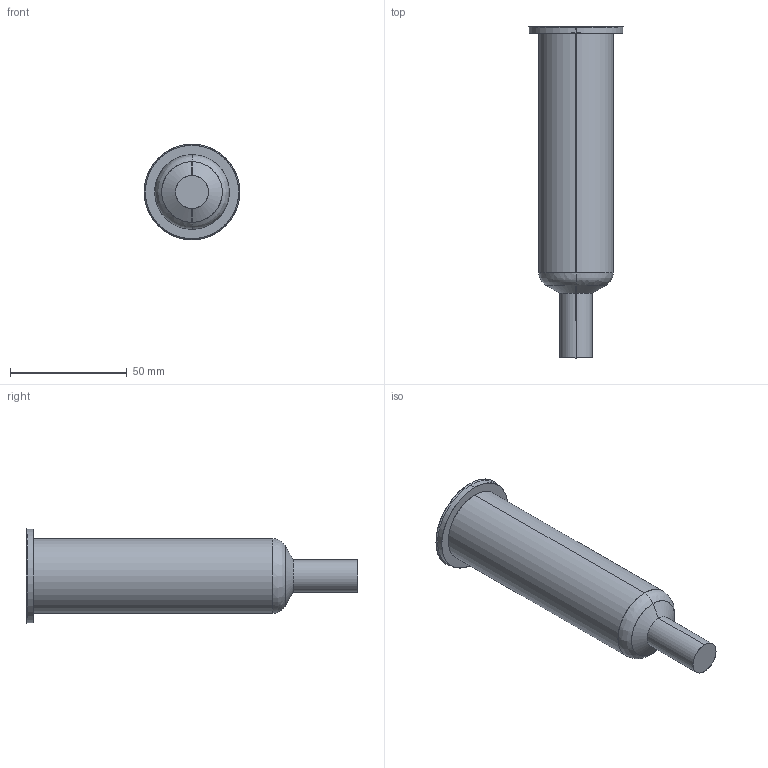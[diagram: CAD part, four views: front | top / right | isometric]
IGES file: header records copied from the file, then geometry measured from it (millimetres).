
Start section: SolidWorks IGES file using analytic representation for surfaces
Global section: file name: C:\Documents and Settings\ws-20\Desktop\TEM\Sede UGBE4503-M-A C-114 L-149 P-25.IGS; native system: SolidWorks 2012; preprocessor: SolidWorks 2012; author: ws-20; date: 120412.155718; units: millimetre
Bounding box: 41 x 142.29 x 41 mm (x, y, z)
Surface area: 14917 mm2 (no closed solid volume)
Topology: 0 solids, 0 shells, 15 faces, 272 edges, 272 vertices
Faces by surface type: revolution 10, bspline 5
